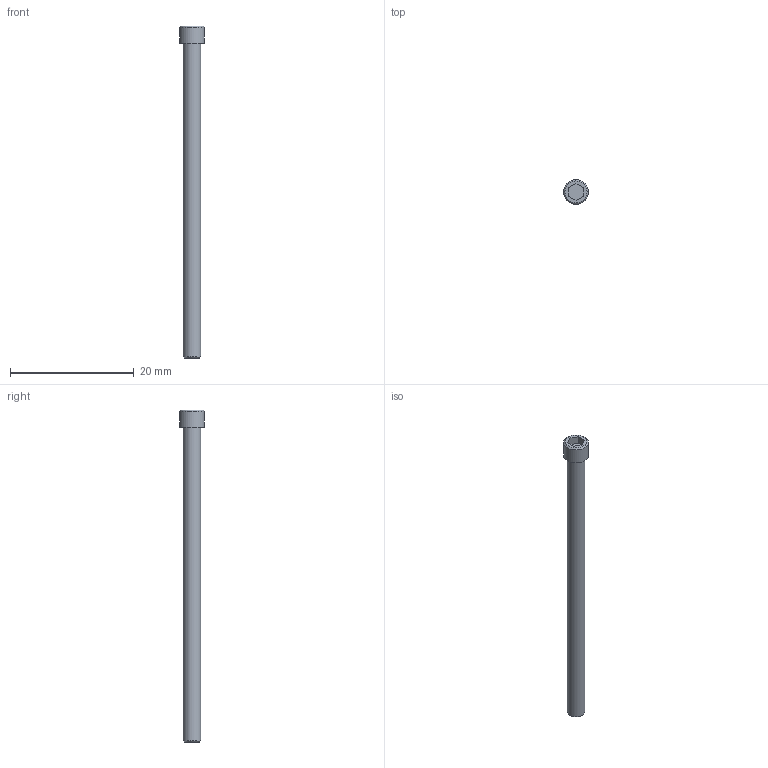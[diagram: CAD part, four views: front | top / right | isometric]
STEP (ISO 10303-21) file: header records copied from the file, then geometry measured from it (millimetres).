
FILE_DESCRIPTION((''),'2;1');
FILE_NAME('C:\Users\Stan\Desktop\import\SHCS 4-40 UNCx2.ipt.step','2011-08-18T17:44:38',(''),(''),'Autodesk Inventor 2012','Autodesk Inventor 2012','');
FILE_SCHEMA(('AUTOMOTIVE_DESIGN { 1 0 10303 214 1 1 1 1 }'));
Length unit declared in the file: inch
Products named in the file (1): SHCS 4-40 UNCx2
Bounding box: 4.01 x 4.01 x 53.59 mm (x, y, z)
Volume: 351.3 mm3; surface area: 522.2 mm2
Topology: 1 solids, 1 shells, 14 faces, 28 edges, 18 vertices
Faces by surface type: plane 10, cone 2, cylinder 2
Full cylindrical faces by diameter (mm): 2.845 x1, 4.013 x1
Entity records: 391 total; most frequent: DIRECTION 60, CARTESIAN_POINT 57, ORIENTED_EDGE 48, EDGE_CURVE 24, AXIS2_PLACEMENT_3D 21, EDGE_LOOP 20, VERTEX_POINT 18, VECTOR 18
